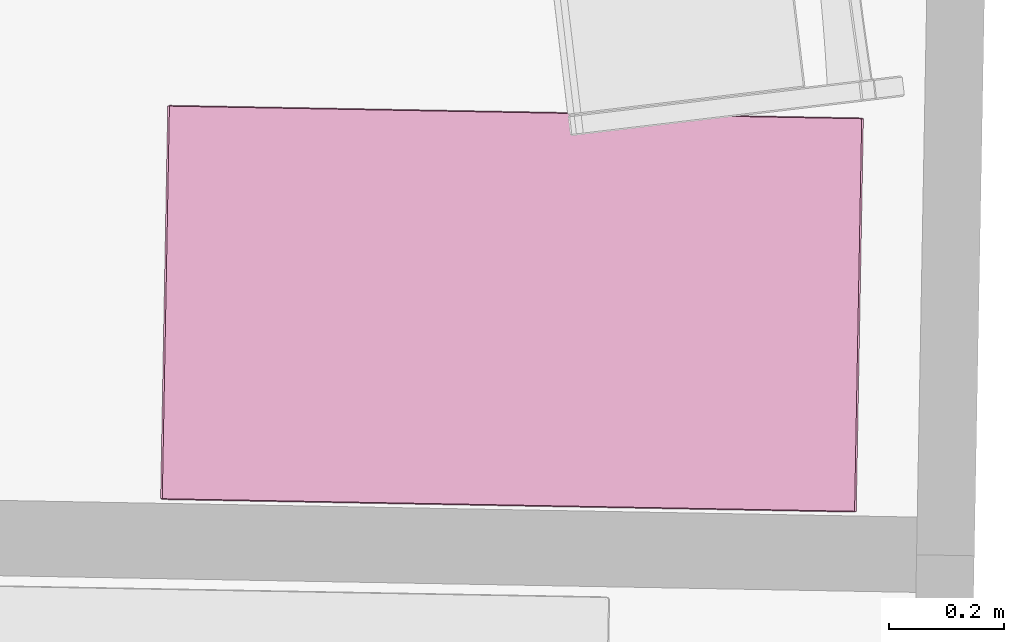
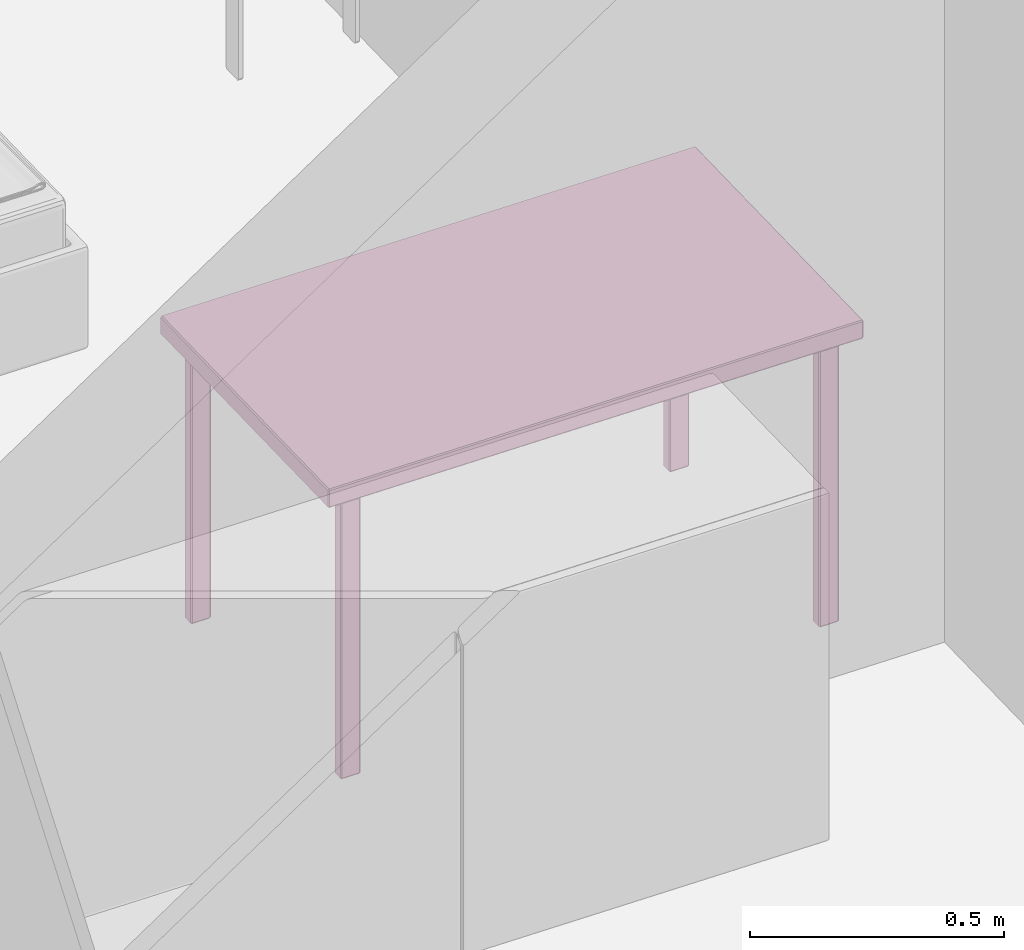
# One storey, part 6 of 9: 1 furnishing.
"""IFC2X3 building model written with IfcOpenShell, lengths in metres."""

from ifc_helpers import new_model, si_unit, frame, origin_with_axes, place, context, project, spatial, faceted_brep, type_object, element, save


model = new_model("IFC2X3")

# Units and contexts
model_context = context("Model", 3, precision=1e-05, world=origin_with_axes())
ifc_project = project(units=[si_unit("AREAUNIT", "SQUARE_METRE"), si_unit("LENGTHUNIT", "METRE")], contexts=[model_context])

# Site, building, storey, space
site_placement = place(None, origin_with_axes())
site = spatial("IfcSite", under=ifc_project, at=site_placement, Name="Site", CompositionType="ELEMENT")
building_placement = place(site_placement, origin_with_axes())
building = spatial("IfcBuilding", under=site, at=building_placement, Name="Building", CompositionType="ELEMENT")
storey_placement = place(building_placement, frame((0.0, 0.0, 5.74363407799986), z_axis=(0.0, 0.0, 1.0), x_axis=(1.0, 0.0, 0.0)))
storey = spatial("IfcBuildingStorey", under=building, at=storey_placement, Name="Story 2", CompositionType="ELEMENT", Elevation=5.7436338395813)
space_placement = place(storey_placement, frame((1.55833263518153, -1.03268257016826, 0.0), z_axis=(0.0, 0.0, 1.0), x_axis=(1.0, 0.0, 0.0)))
space = spatial("IfcSpace", under=storey, at=space_placement, Name="013", CompositionType="ELEMENT", InteriorOrExteriorSpace="INTERNAL")

# Furnishing
furniture_type = type_object("IfcFurnitureType", Name="0b22b4f8-52a6-43fd-845f-cb6272e797b4")
furnishing_placement = place(space_placement, frame((-0.70297147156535, 0.360689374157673, 0.363222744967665), z_axis=(0.0, 0.0, 1.00000001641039), x_axis=(0.0182008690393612, 0.999834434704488, 0.0)))
element("IfcFurnishingElement", 1, at=furnishing_placement, inside=space, type_object=furniture_type, Name="Table", ObjectType="Table", context=model_context, shape_type="Brep", body=[
    faceted_brep([(0.3399, 0.6025, 0.3211), (-0.3399, 0.6025, 0.3211), (0.3399, 0.6025, 0.36), (-0.3399, 0.6025, 0.36), (0.3399, 0.6025, 0.36), (-0.3399, 0.6025, 0.3211), (0.2914, -0.5579, 0.3293), (0.2914, -0.5183, 0.3293), (0.2914, -0.5579, -0.36), (0.2914, -0.5183, -0.36), (0.2914, -0.5579, -0.36), (0.2914, -0.5183, 0.3293), (0.3155, -0.5609, 0.3293), (0.2931, -0.5609, 0.3293), (0.3155, -0.5609, -0.36), (0.2931, -0.5609, -0.36), (0.3155, -0.5609, -0.36), (0.2931, -0.5609, 0.3293), (0.3172, -0.5183, 0.3293), (0.3172, -0.5579, 0.3293), (0.3172, -0.5183, -0.36), (0.3172, -0.5579, -0.36), (0.3172, -0.5183, -0.36), (0.3172, -0.5579, 0.3293), (0.2931, -0.5153, 0.3293), (0.3155, -0.5153, 0.3293), (0.2931, -0.5153, -0.36), (0.3155, -0.5153, -0.36), (0.2931, -0.5153, -0.36), (0.3155, -0.5153, 0.3293), (0.2914, 0.5579, 0.3293), (0.2914, 0.5579, -0.36), (0.2914, 0.5183, 0.3293), (0.2914, 0.5183, -0.36), (0.2914, 0.5183, 0.3293), (0.2914, 0.5579, -0.36), (0.3155, 0.5609, 0.3293), (0.3155, 0.5609, -0.36), (0.2931, 0.5609, 0.3293), (0.2931, 0.5609, -0.36), (0.2931, 0.5609, 0.3293), (0.3155, 0.5609, -0.36), (0.3172, 0.5183, 0.3293), (0.3172, 0.5183, -0.36), (0.3172, 0.5579, 0.3293), (0.3172, 0.5579, -0.36), (0.3172, 0.5579, 0.3293), (0.3172, 0.5183, -0.36), (0.2931, 0.5153, 0.3293), (0.2931, 0.5153, -0.36), (0.3155, 0.5153, 0.3293), (0.3155, 0.5153, -0.36), (0.3155, 0.5153, 0.3293), (0.2931, 0.5153, -0.36), (0.3416, 0.5995, 0.3211), (0.3416, 0.5995, 0.36), (0.3416, -0.5995, 0.3211), (0.3416, -0.5995, 0.36), (0.3416, -0.5995, 0.3211), (0.3416, 0.5995, 0.36), (-0.3416, 0.5995, 0.36), (-0.3416, 0.5995, 0.3211), (-0.3416, -0.5995, 0.36), (-0.3416, -0.5995, 0.3211), (-0.3416, -0.5995, 0.36), (-0.3416, 0.5995, 0.3211), (-0.2914, -0.5579, 0.3293), (-0.2914, -0.5579, -0.36), (-0.2914, -0.5183, 0.3293), (-0.2914, -0.5183, -0.36), (-0.2914, -0.5183, 0.3293), (-0.2914, -0.5579, -0.36), (-0.3155, -0.5609, 0.3293), (-0.3155, -0.5609, -0.36), (-0.2931, -0.5609, 0.3293), (-0.2931, -0.5609, -0.36), (-0.2931, -0.5609, 0.3293), (-0.3155, -0.5609, -0.36), (-0.3172, -0.5183, 0.3293), (-0.3172, -0.5183, -0.36), (-0.3172, -0.5579, 0.3293), (-0.3172, -0.5579, -0.36), (-0.3172, -0.5579, 0.3293), (-0.3172, -0.5183, -0.36), (-0.2931, -0.5153, 0.3293), (-0.2931, -0.5153, -0.36), (-0.3155, -0.5153, 0.3293), (-0.3155, -0.5153, -0.36), (-0.3155, -0.5153, 0.3293), (-0.2931, -0.5153, -0.36), (-0.2914, 0.5579, 0.3293), (-0.2914, 0.5183, 0.3293), (-0.2914, 0.5579, -0.36), (-0.2914, 0.5183, -0.36), (-0.2914, 0.5579, -0.36), (-0.2914, 0.5183, 0.3293), (-0.3155, 0.5609, 0.3293), (-0.2931, 0.5609, 0.3293), (-0.3155, 0.5609, -0.36), (-0.2931, 0.5609, -0.36), (-0.3155, 0.5609, -0.36), (-0.2931, 0.5609, 0.3293), (-0.3172, 0.5183, 0.3293), (-0.3172, 0.5579, 0.3293), (-0.3172, 0.5183, -0.36), (-0.3172, 0.5579, -0.36), (-0.3172, 0.5183, -0.36), (-0.3172, 0.5579, 0.3293), (-0.2931, 0.5153, 0.3293), (-0.3155, 0.5153, 0.3293), (-0.2931, 0.5153, -0.36), (-0.3155, 0.5153, -0.36), (-0.2931, 0.5153, -0.36), (-0.3155, 0.5153, 0.3293), (-0.3399, 0.5995, 0.3632), (-0.3399, -0.5995, 0.3632), (0.3399, 0.5995, 0.3632), (0.3399, -0.5995, 0.3632), (0.3399, 0.5995, 0.3632), (-0.3399, -0.5995, 0.3632), (0.3399, -0.6025, 0.3211), (0.3399, -0.6025, 0.36), (-0.3399, -0.6025, 0.3211), (-0.3399, -0.6025, 0.36), (-0.3399, -0.6025, 0.3211), (0.3399, -0.6025, 0.36), (0.3399, -0.5995, 0.3179), (-0.3399, -0.5995, 0.3179), (0.3399, 0.5995, 0.3179), (-0.3399, 0.5995, 0.3179), (0.3399, 0.5995, 0.3179), (-0.3399, -0.5995, 0.3179), (0.3155, -0.5579, 0.3325), (0.3155, -0.5183, 0.3325), (0.2931, -0.5579, 0.3325), (0.2931, -0.5183, 0.3325), (0.2931, -0.5579, 0.3325), (0.3155, -0.5183, 0.3325), (0.3155, -0.5183, -0.3632), (0.3155, -0.5579, -0.3632), (0.2931, -0.5183, -0.3632), (0.2931, -0.5579, -0.3632), (0.2931, -0.5183, -0.3632), (0.3155, -0.5579, -0.3632), (0.3155, 0.5579, -0.3632), (0.3155, 0.5183, -0.3632), (0.2931, 0.5579, -0.3632), (0.2931, 0.5183, -0.3632), (0.2931, 0.5579, -0.3632), (0.3155, 0.5183, -0.3632), (0.3155, 0.5183, 0.3325), (0.3155, 0.5579, 0.3325), (0.2931, 0.5183, 0.3325), (0.2931, 0.5579, 0.3325), (0.2931, 0.5183, 0.3325), (0.3155, 0.5579, 0.3325), (-0.3155, -0.5579, -0.3632), (-0.3155, -0.5183, -0.3632), (-0.2931, -0.5579, -0.3632), (-0.2931, -0.5183, -0.3632), (-0.2931, -0.5579, -0.3632), (-0.3155, -0.5183, -0.3632), (-0.3155, -0.5183, 0.3325), (-0.3155, -0.5579, 0.3325), (-0.2931, -0.5183, 0.3325), (-0.2931, -0.5579, 0.3325), (-0.2931, -0.5183, 0.3325), (-0.3155, -0.5579, 0.3325), (-0.3155, 0.5579, 0.3325), (-0.3155, 0.5183, 0.3325), (-0.2931, 0.5579, 0.3325), (-0.2931, 0.5183, 0.3325), (-0.2931, 0.5579, 0.3325), (-0.3155, 0.5183, 0.3325), (-0.3155, 0.5183, -0.3632), (-0.3155, 0.5579, -0.3632), (-0.2931, 0.5183, -0.3632), (-0.2931, 0.5579, -0.3632), (-0.2931, 0.5183, -0.3632), (-0.3155, 0.5579, -0.3632), (-0.3399, 0.5995, 0.3632), (-0.3399, 0.6025, 0.36), (-0.3416, 0.5995, 0.36), (0.2931, -0.5183, -0.3632), (0.2914, -0.5183, -0.36), (0.2931, -0.5153, -0.36), (0.2931, -0.5579, -0.3632), (0.2931, -0.5609, -0.36), (0.2914, -0.5579, -0.36), (0.3155, -0.5579, -0.3632), (0.3172, -0.5579, -0.36), (0.3155, -0.5609, -0.36), (0.3155, -0.5183, -0.3632), (0.3155, -0.5153, -0.36), (0.3172, -0.5183, -0.36), (0.2931, -0.5183, 0.3325), (0.2931, -0.5153, 0.3293), (0.2914, -0.5183, 0.3293), (0.2931, 0.5153, -0.36), (0.2914, 0.5183, -0.36), (0.2931, 0.5183, -0.3632), (0.2931, 0.5579, 0.3325), (0.2931, 0.5609, 0.3293), (0.2914, 0.5579, 0.3293), (0.3155, 0.5579, 0.3325), (0.3172, 0.5579, 0.3293), (0.3155, 0.5609, 0.3293), (0.3155, 0.5183, 0.3325), (0.3155, 0.5153, 0.3293), (0.3172, 0.5183, 0.3293), (0.3399, -0.6025, 0.36), (0.3416, -0.5995, 0.36), (0.3399, -0.5995, 0.3632), (0.3399, 0.5995, 0.3632), (0.3416, 0.5995, 0.36), (0.3399, 0.6025, 0.36), (-0.3399, -0.6025, 0.3211), (-0.3416, -0.5995, 0.3211), (-0.3399, -0.5995, 0.3179), (-0.3399, 0.5995, 0.3179), (-0.3416, 0.5995, 0.3211), (-0.3399, 0.6025, 0.3211), (-0.2931, -0.5153, -0.36), (-0.2914, -0.5183, -0.36), (-0.2931, -0.5183, -0.3632), (-0.2931, -0.5579, 0.3325), (-0.2931, -0.5609, 0.3293), (-0.2914, -0.5579, 0.3293), (-0.3155, -0.5579, 0.3325), (-0.3172, -0.5579, 0.3293), (-0.3155, -0.5609, 0.3293), (-0.3155, -0.5183, 0.3325), (-0.3155, -0.5153, 0.3293), (-0.3172, -0.5183, 0.3293), (-0.2931, 0.5183, -0.3632), (-0.2914, 0.5183, -0.36), (-0.2931, 0.5153, -0.36), (-0.2931, 0.5579, -0.3632), (-0.2931, 0.5609, -0.36), (-0.2914, 0.5579, -0.36), (-0.3155, 0.5579, -0.3632), (-0.3172, 0.5579, -0.36), (-0.3155, 0.5609, -0.36), (-0.3155, 0.5183, -0.3632), (-0.3155, 0.5153, -0.36), (-0.3172, 0.5183, -0.36), (-0.2931, 0.5183, 0.3325), (-0.2931, 0.5153, 0.3293), (-0.2914, 0.5183, 0.3293), (-0.3399, -0.6025, 0.36), (-0.3399, -0.5995, 0.3632), (-0.3416, -0.5995, 0.36), (0.3399, -0.6025, 0.3211), (0.3399, -0.5995, 0.3179), (0.3416, -0.5995, 0.3211), (0.3416, 0.5995, 0.3211), (0.3399, 0.5995, 0.3179), (0.3399, 0.6025, 0.3211), (0.3155, -0.5153, 0.3293), (0.3155, -0.5183, 0.3325), (0.3172, -0.5183, 0.3293), (0.3172, -0.5579, 0.3293), (0.3155, -0.5579, 0.3325), (0.3155, -0.5609, 0.3293), (0.2931, -0.5609, 0.3293), (0.2931, -0.5579, 0.3325), (0.2914, -0.5579, 0.3293), (0.3155, 0.5153, -0.36), (0.3155, 0.5183, -0.3632), (0.3172, 0.5183, -0.36), (0.3172, 0.5579, -0.36), (0.3155, 0.5579, -0.3632), (0.3155, 0.5609, -0.36), (0.2931, 0.5609, -0.36), (0.2931, 0.5579, -0.3632), (0.2914, 0.5579, -0.36), (0.2931, 0.5153, 0.3293), (0.2931, 0.5183, 0.3325), (0.2914, 0.5183, 0.3293), (-0.3155, -0.5153, -0.36), (-0.3155, -0.5183, -0.3632), (-0.3172, -0.5183, -0.36), (-0.3172, -0.5579, -0.36), (-0.3155, -0.5579, -0.3632), (-0.3155, -0.5609, -0.36), (-0.2931, -0.5609, -0.36), (-0.2931, -0.5579, -0.3632), (-0.2914, -0.5579, -0.36), (-0.2931, -0.5153, 0.3293), (-0.2931, -0.5183, 0.3325), (-0.2914, -0.5183, 0.3293), (-0.3155, 0.5153, 0.3293), (-0.3155, 0.5183, 0.3325), (-0.3172, 0.5183, 0.3293), (-0.3172, 0.5579, 0.3293), (-0.3155, 0.5579, 0.3325), (-0.3155, 0.5609, 0.3293), (-0.2931, 0.5609, 0.3293), (-0.2931, 0.5579, 0.3325), (-0.2914, 0.5579, 0.3293), (-0.3399, 0.6025, 0.36), (-0.3399, 0.6025, 0.3211), (-0.3416, 0.5995, 0.36), (-0.3416, 0.5995, 0.3211), (-0.3416, 0.5995, 0.36), (-0.3399, 0.6025, 0.3211), (-0.3399, 0.6025, 0.3211), (0.3399, 0.6025, 0.3211), (-0.3399, 0.5995, 0.3179), (0.3399, 0.5995, 0.3179), (-0.3399, 0.5995, 0.3179), (0.3399, 0.6025, 0.3211), (0.3399, 0.6025, 0.3211), (0.3399, 0.6025, 0.36), (0.3416, 0.5995, 0.3211), (0.3416, 0.5995, 0.36), (0.3416, 0.5995, 0.3211), (0.3399, 0.6025, 0.36), (0.3399, 0.6025, 0.36), (-0.3399, 0.6025, 0.36), (0.3399, 0.5995, 0.3632), (-0.3399, 0.5995, 0.3632), (0.3399, 0.5995, 0.3632), (-0.3399, 0.6025, 0.36), (0.2914, -0.5183, -0.36), (0.2914, -0.5183, 0.3293), (0.2931, -0.5153, -0.36), (0.2931, -0.5153, 0.3293), (0.2931, -0.5153, -0.36), (0.2914, -0.5183, 0.3293), (0.2914, -0.5183, 0.3293), (0.2914, -0.5579, 0.3293), (0.2931, -0.5183, 0.3325), (0.2931, -0.5579, 0.3325), (0.2931, -0.5183, 0.3325), (0.2914, -0.5579, 0.3293), (0.2914, -0.5579, 0.3293), (0.2914, -0.5579, -0.36), (0.2931, -0.5609, 0.3293), (0.2931, -0.5609, -0.36), (0.2931, -0.5609, 0.3293), (0.2914, -0.5579, -0.36), (0.2914, -0.5579, -0.36), (0.2914, -0.5183, -0.36), (0.2931, -0.5579, -0.3632), (0.2931, -0.5183, -0.3632), (0.2931, -0.5579, -0.3632), (0.2914, -0.5183, -0.36), (0.2931, -0.5609, 0.3293), (0.3155, -0.5609, 0.3293), (0.2931, -0.5579, 0.3325), (0.3155, -0.5579, 0.3325), (0.2931, -0.5579, 0.3325), (0.3155, -0.5609, 0.3293), (0.3155, -0.5609, 0.3293), (0.3155, -0.5609, -0.36), (0.3172, -0.5579, 0.3293), (0.3172, -0.5579, -0.36), (0.3172, -0.5579, 0.3293), (0.3155, -0.5609, -0.36), (0.3155, -0.5609, -0.36), (0.2931, -0.5609, -0.36), (0.3155, -0.5579, -0.3632), (0.2931, -0.5579, -0.3632), (0.3155, -0.5579, -0.3632), (0.2931, -0.5609, -0.36), (0.3172, -0.5579, 0.3293), (0.3172, -0.5183, 0.3293), (0.3155, -0.5579, 0.3325), (0.3155, -0.5183, 0.3325), (0.3155, -0.5579, 0.3325), (0.3172, -0.5183, 0.3293), (0.3172, -0.5183, 0.3293), (0.3172, -0.5183, -0.36), (0.3155, -0.5153, 0.3293), (0.3155, -0.5153, -0.36), (0.3155, -0.5153, 0.3293), (0.3172, -0.5183, -0.36), (0.3172, -0.5183, -0.36), (0.3172, -0.5579, -0.36), (0.3155, -0.5183, -0.3632), (0.3155, -0.5579, -0.3632), (0.3155, -0.5183, -0.3632), (0.3172, -0.5579, -0.36), (0.3155, -0.5153, 0.3293), (0.2931, -0.5153, 0.3293), (0.3155, -0.5183, 0.3325), (0.2931, -0.5183, 0.3325), (0.3155, -0.5183, 0.3325), (0.2931, -0.5153, 0.3293), (0.2931, -0.5153, -0.36), (0.3155, -0.5153, -0.36), (0.2931, -0.5183, -0.3632), (0.3155, -0.5183, -0.3632), (0.2931, -0.5183, -0.3632), (0.3155, -0.5153, -0.36), (0.2914, 0.5183, -0.36), (0.2914, 0.5579, -0.36), (0.2931, 0.5183, -0.3632), (0.2931, 0.5579, -0.3632), (0.2931, 0.5183, -0.3632), (0.2914, 0.5579, -0.36), (0.2914, 0.5579, -0.36), (0.2914, 0.5579, 0.3293), (0.2931, 0.5609, -0.36), (0.2931, 0.5609, 0.3293), (0.2931, 0.5609, -0.36), (0.2914, 0.5579, 0.3293), (0.2914, 0.5579, 0.3293), (0.2914, 0.5183, 0.3293), (0.2931, 0.5579, 0.3325), (0.2931, 0.5183, 0.3325), (0.2931, 0.5579, 0.3325), (0.2914, 0.5183, 0.3293), (0.2914, 0.5183, 0.3293), (0.2914, 0.5183, -0.36), (0.2931, 0.5153, 0.3293), (0.2931, 0.5153, -0.36), (0.2931, 0.5153, 0.3293), (0.2914, 0.5183, -0.36), (0.2931, 0.5609, -0.36), (0.3155, 0.5609, -0.36), (0.2931, 0.5579, -0.3632), (0.3155, 0.5579, -0.3632), (0.2931, 0.5579, -0.3632), (0.3155, 0.5609, -0.36), (0.3155, 0.5609, -0.36), (0.3155, 0.5609, 0.3293), (0.3172, 0.5579, -0.36), (0.3172, 0.5579, 0.3293), (0.3172, 0.5579, -0.36), (0.3155, 0.5609, 0.3293), (0.3155, 0.5609, 0.3293), (0.2931, 0.5609, 0.3293), (0.3155, 0.5579, 0.3325), (0.2931, 0.5579, 0.3325), (0.3155, 0.5579, 0.3325), (0.2931, 0.5609, 0.3293), (0.3172, 0.5579, -0.36), (0.3172, 0.5183, -0.36), (0.3155, 0.5579, -0.3632), (0.3155, 0.5183, -0.3632), (0.3155, 0.5579, -0.3632), (0.3172, 0.5183, -0.36), (0.3172, 0.5183, -0.36), (0.3172, 0.5183, 0.3293), (0.3155, 0.5153, -0.36), (0.3155, 0.5153, 0.3293), (0.3155, 0.5153, -0.36), (0.3172, 0.5183, 0.3293), (0.3172, 0.5183, 0.3293), (0.3172, 0.5579, 0.3293), (0.3155, 0.5183, 0.3325), (0.3155, 0.5579, 0.3325), (0.3155, 0.5183, 0.3325), (0.3172, 0.5579, 0.3293), (0.3155, 0.5153, -0.36), (0.2931, 0.5153, -0.36), (0.3155, 0.5183, -0.3632), (0.2931, 0.5183, -0.3632), (0.3155, 0.5183, -0.3632), (0.2931, 0.5153, -0.36), (0.2931, 0.5153, 0.3293), (0.3155, 0.5153, 0.3293), (0.2931, 0.5183, 0.3325), (0.3155, 0.5183, 0.3325), (0.2931, 0.5183, 0.3325), (0.3155, 0.5153, 0.3293), (0.3416, -0.5995, 0.36), (0.3416, 0.5995, 0.36), (0.3399, -0.5995, 0.3632), (0.3399, 0.5995, 0.3632), (0.3399, -0.5995, 0.3632), (0.3416, 0.5995, 0.36), (0.3416, 0.5995, 0.3211), (0.3416, -0.5995, 0.3211), (0.3399, 0.5995, 0.3179), (0.3399, -0.5995, 0.3179), (0.3399, 0.5995, 0.3179), (0.3416, -0.5995, 0.3211), (0.3416, -0.5995, 0.3211), (0.3416, -0.5995, 0.36), (0.3399, -0.6025, 0.3211), (0.3399, -0.6025, 0.36), (0.3399, -0.6025, 0.3211), (0.3416, -0.5995, 0.36), (-0.3416, -0.5995, 0.3211), (-0.3416, 0.5995, 0.3211), (-0.3399, -0.5995, 0.3179), (-0.3399, 0.5995, 0.3179), (-0.3399, -0.5995, 0.3179), (-0.3416, 0.5995, 0.3211), (-0.3416, 0.5995, 0.36), (-0.3416, -0.5995, 0.36), (-0.3399, 0.5995, 0.3632), (-0.3399, -0.5995, 0.3632), (-0.3399, 0.5995, 0.3632), (-0.3416, -0.5995, 0.36), (-0.3416, -0.5995, 0.36), (-0.3416, -0.5995, 0.3211), (-0.3399, -0.6025, 0.36), (-0.3399, -0.6025, 0.3211), (-0.3399, -0.6025, 0.36), (-0.3416, -0.5995, 0.3211), (-0.2914, -0.5183, -0.36), (-0.2914, -0.5579, -0.36), (-0.2931, -0.5183, -0.3632), (-0.2931, -0.5579, -0.3632), (-0.2931, -0.5183, -0.3632), (-0.2914, -0.5579, -0.36), (-0.2914, -0.5579, -0.36), (-0.2914, -0.5579, 0.3293), (-0.2931, -0.5609, -0.36), (-0.2931, -0.5609, 0.3293), (-0.2931, -0.5609, -0.36), (-0.2914, -0.5579, 0.3293), (-0.2914, -0.5579, 0.3293), (-0.2914, -0.5183, 0.3293), (-0.2931, -0.5579, 0.3325), (-0.2931, -0.5183, 0.3325), (-0.2931, -0.5579, 0.3325), (-0.2914, -0.5183, 0.3293), (-0.2914, -0.5183, 0.3293), (-0.2914, -0.5183, -0.36), (-0.2931, -0.5153, 0.3293), (-0.2931, -0.5153, -0.36), (-0.2931, -0.5153, 0.3293), (-0.2914, -0.5183, -0.36), (-0.2931, -0.5609, -0.36), (-0.3155, -0.5609, -0.36), (-0.2931, -0.5579, -0.3632), (-0.3155, -0.5579, -0.3632), (-0.2931, -0.5579, -0.3632), (-0.3155, -0.5609, -0.36), (-0.3155, -0.5609, -0.36), (-0.3155, -0.5609, 0.3293), (-0.3172, -0.5579, -0.36), (-0.3172, -0.5579, 0.3293), (-0.3172, -0.5579, -0.36), (-0.3155, -0.5609, 0.3293), (-0.3155, -0.5609, 0.3293), (-0.2931, -0.5609, 0.3293), (-0.3155, -0.5579, 0.3325), (-0.2931, -0.5579, 0.3325), (-0.3155, -0.5579, 0.3325), (-0.2931, -0.5609, 0.3293), (-0.3172, -0.5579, -0.36), (-0.3172, -0.5183, -0.36), (-0.3155, -0.5579, -0.3632), (-0.3155, -0.5183, -0.3632), (-0.3155, -0.5579, -0.3632), (-0.3172, -0.5183, -0.36), (-0.3172, -0.5183, -0.36), (-0.3172, -0.5183, 0.3293), (-0.3155, -0.5153, -0.36), (-0.3155, -0.5153, 0.3293), (-0.3155, -0.5153, -0.36), (-0.3172, -0.5183, 0.3293), (-0.3172, -0.5183, 0.3293), (-0.3172, -0.5579, 0.3293), (-0.3155, -0.5183, 0.3325), (-0.3155, -0.5579, 0.3325), (-0.3155, -0.5183, 0.3325), (-0.3172, -0.5579, 0.3293), (-0.3155, -0.5153, -0.36), (-0.2931, -0.5153, -0.36), (-0.3155, -0.5183, -0.3632), (-0.2931, -0.5183, -0.3632), (-0.3155, -0.5183, -0.3632), (-0.2931, -0.5153, -0.36), (-0.2931, -0.5153, 0.3293), (-0.3155, -0.5153, 0.3293), (-0.2931, -0.5183, 0.3325), (-0.3155, -0.5183, 0.3325), (-0.2931, -0.5183, 0.3325), (-0.3155, -0.5153, 0.3293), (-0.2914, 0.5183, -0.36), (-0.2914, 0.5183, 0.3293), (-0.2931, 0.5153, -0.36), (-0.2931, 0.5153, 0.3293), (-0.2931, 0.5153, -0.36), (-0.2914, 0.5183, 0.3293), (-0.2914, 0.5183, 0.3293), (-0.2914, 0.5579, 0.3293), (-0.2931, 0.5183, 0.3325), (-0.2931, 0.5579, 0.3325), (-0.2931, 0.5183, 0.3325), (-0.2914, 0.5579, 0.3293), (-0.2914, 0.5579, 0.3293), (-0.2914, 0.5579, -0.36), (-0.2931, 0.5609, 0.3293), (-0.2931, 0.5609, -0.36), (-0.2931, 0.5609, 0.3293), (-0.2914, 0.5579, -0.36), (-0.2914, 0.5579, -0.36), (-0.2914, 0.5183, -0.36), (-0.2931, 0.5579, -0.3632), (-0.2931, 0.5183, -0.3632), (-0.2931, 0.5579, -0.3632), (-0.2914, 0.5183, -0.36), (-0.2931, 0.5609, 0.3293), (-0.3155, 0.5609, 0.3293), (-0.2931, 0.5579, 0.3325), (-0.3155, 0.5579, 0.3325), (-0.2931, 0.5579, 0.3325), (-0.3155, 0.5609, 0.3293), (-0.3155, 0.5609, 0.3293), (-0.3155, 0.5609, -0.36), (-0.3172, 0.5579, 0.3293), (-0.3172, 0.5579, -0.36), (-0.3172, 0.5579, 0.3293), (-0.3155, 0.5609, -0.36), (-0.3155, 0.5609, -0.36), (-0.2931, 0.5609, -0.36), (-0.3155, 0.5579, -0.3632), (-0.2931, 0.5579, -0.3632), (-0.3155, 0.5579, -0.3632), (-0.2931, 0.5609, -0.36), (-0.3172, 0.5579, 0.3293), (-0.3172, 0.5183, 0.3293), (-0.3155, 0.5579, 0.3325), (-0.3155, 0.5183, 0.3325), (-0.3155, 0.5579, 0.3325), (-0.3172, 0.5183, 0.3293), (-0.3172, 0.5183, 0.3293), (-0.3172, 0.5183, -0.36), (-0.3155, 0.5153, 0.3293), (-0.3155, 0.5153, -0.36), (-0.3155, 0.5153, 0.3293), (-0.3172, 0.5183, -0.36), (-0.3172, 0.5183, -0.36), (-0.3172, 0.5579, -0.36), (-0.3155, 0.5183, -0.3632), (-0.3155, 0.5579, -0.3632), (-0.3155, 0.5183, -0.3632), (-0.3172, 0.5579, -0.36), (-0.3155, 0.5153, 0.3293), (-0.2931, 0.5153, 0.3293), (-0.3155, 0.5183, 0.3325), (-0.2931, 0.5183, 0.3325), (-0.3155, 0.5183, 0.3325), (-0.2931, 0.5153, 0.3293), (-0.2931, 0.5153, -0.36), (-0.3155, 0.5153, -0.36), (-0.2931, 0.5183, -0.3632), (-0.3155, 0.5183, -0.3632), (-0.2931, 0.5183, -0.3632), (-0.3155, 0.5153, -0.36), (0.3399, -0.5995, 0.3632), (-0.3399, -0.5995, 0.3632), (0.3399, -0.6025, 0.36), (-0.3399, -0.6025, 0.36), (0.3399, -0.6025, 0.36), (-0.3399, -0.5995, 0.3632), (0.3399, -0.6025, 0.3211), (-0.3399, -0.6025, 0.3211), (0.3399, -0.5995, 0.3179), (-0.3399, -0.5995, 0.3179), (0.3399, -0.5995, 0.3179), (-0.3399, -0.6025, 0.3211)], [[[0, 1, 2]], [[3, 4, 5]], [[6, 7, 8]], [[9, 10, 11]], [[12, 13, 14]], [[15, 16, 17]], [[18, 19, 20]], [[21, 22, 23]], [[24, 25, 26]], [[27, 28, 29]], [[30, 31, 32]], [[33, 34, 35]], [[36, 37, 38]], [[39, 40, 41]], [[42, 43, 44]], [[45, 46, 47]], [[48, 49, 50]], [[51, 52, 53]], [[54, 55, 56]], [[57, 58, 59]], [[60, 61, 62]], [[63, 64, 65]], [[66, 67, 68]], [[69, 70, 71]], [[72, 73, 74]], [[75, 76, 77]], [[78, 79, 80]], [[81, 82, 83]], [[84, 85, 86]], [[87, 88, 89]], [[90, 91, 92]], [[93, 94, 95]], [[96, 97, 98]], [[99, 100, 101]], [[102, 103, 104]], [[105, 106, 107]], [[108, 109, 110]], [[111, 112, 113]], [[114, 115, 116]], [[117, 118, 119]], [[120, 121, 122]], [[123, 124, 125]], [[126, 127, 128]], [[129, 130, 131]], [[132, 133, 134]], [[135, 136, 137]], [[138, 139, 140]], [[141, 142, 143]], [[144, 145, 146]], [[147, 148, 149]], [[150, 151, 152]], [[153, 154, 155]], [[156, 157, 158]], [[159, 160, 161]], [[162, 163, 164]], [[165, 166, 167]], [[168, 169, 170]], [[171, 172, 173]], [[174, 175, 176]], [[177, 178, 179]], [[180, 181, 182]], [[183, 184, 185]], [[186, 187, 188]], [[189, 190, 191]], [[192, 193, 194]], [[195, 196, 197]], [[198, 199, 200]], [[201, 202, 203]], [[204, 205, 206]], [[207, 208, 209]], [[210, 211, 212]], [[213, 214, 215]], [[216, 217, 218]], [[219, 220, 221]], [[222, 223, 224]], [[225, 226, 227]], [[228, 229, 230]], [[231, 232, 233]], [[234, 235, 236]], [[237, 238, 239]], [[240, 241, 242]], [[243, 244, 245]], [[246, 247, 248]], [[249, 250, 251]], [[252, 253, 254]], [[255, 256, 257]], [[258, 259, 260]], [[261, 262, 263]], [[264, 265, 266]], [[267, 268, 269]], [[270, 271, 272]], [[273, 274, 275]], [[276, 277, 278]], [[279, 280, 281]], [[282, 283, 284]], [[285, 286, 287]], [[288, 289, 290]], [[291, 292, 293]], [[294, 295, 296]], [[297, 298, 299]], [[300, 301, 302]], [[303, 304, 305]], [[306, 307, 308]], [[309, 310, 311]], [[312, 313, 314]], [[315, 316, 317]], [[318, 319, 320]], [[321, 322, 323]], [[324, 325, 326]], [[327, 328, 329]], [[330, 331, 332]], [[333, 334, 335]], [[336, 337, 338]], [[339, 340, 341]], [[342, 343, 344]], [[345, 346, 347]], [[348, 349, 350]], [[351, 352, 353]], [[354, 355, 356]], [[357, 358, 359]], [[360, 361, 362]], [[363, 364, 365]], [[366, 367, 368]], [[369, 370, 371]], [[372, 373, 374]], [[375, 376, 377]], [[378, 379, 380]], [[381, 382, 383]], [[384, 385, 386]], [[387, 388, 389]], [[390, 391, 392]], [[393, 394, 395]], [[396, 397, 398]], [[399, 400, 401]], [[402, 403, 404]], [[405, 406, 407]], [[408, 409, 410]], [[411, 412, 413]], [[414, 415, 416]], [[417, 418, 419]], [[420, 421, 422]], [[423, 424, 425]], [[426, 427, 428]], [[429, 430, 431]], [[432, 433, 434]], [[435, 436, 437]], [[438, 439, 440]], [[441, 442, 443]], [[444, 445, 446]], [[447, 448, 449]], [[450, 451, 452]], [[453, 454, 455]], [[456, 457, 458]], [[459, 460, 461]], [[462, 463, 464]], [[465, 466, 467]], [[468, 469, 470]], [[471, 472, 473]], [[474, 475, 476]], [[477, 478, 479]], [[480, 481, 482]], [[483, 484, 485]], [[486, 487, 488]], [[489, 490, 491]], [[492, 493, 494]], [[495, 496, 497]], [[498, 499, 500]], [[501, 502, 503]], [[504, 505, 506]], [[507, 508, 509]], [[510, 511, 512]], [[513, 514, 515]], [[516, 517, 518]], [[519, 520, 521]], [[522, 523, 524]], [[525, 526, 527]], [[528, 529, 530]], [[531, 532, 533]], [[534, 535, 536]], [[537, 538, 539]], [[540, 541, 542]], [[543, 544, 545]], [[546, 547, 548]], [[549, 550, 551]], [[552, 553, 554]], [[555, 556, 557]], [[558, 559, 560]], [[561, 562, 563]], [[564, 565, 566]], [[567, 568, 569]], [[570, 571, 572]], [[573, 574, 575]], [[576, 577, 578]], [[579, 580, 581]], [[582, 583, 584]], [[585, 586, 587]], [[588, 589, 590]], [[591, 592, 593]], [[594, 595, 596]], [[597, 598, 599]], [[600, 601, 602]], [[603, 604, 605]], [[606, 607, 608]], [[609, 610, 611]], [[612, 613, 614]], [[615, 616, 617]], [[618, 619, 620]], [[621, 622, 623]], [[624, 625, 626]], [[627, 628, 629]], [[630, 631, 632]], [[633, 634, 635]], [[636, 637, 638]], [[639, 640, 641]], [[642, 643, 644]], [[645, 646, 647]], [[648, 649, 650]], [[651, 652, 653]], [[654, 655, 656]], [[657, 658, 659]]]),
])

save(model, "model.ifc")
